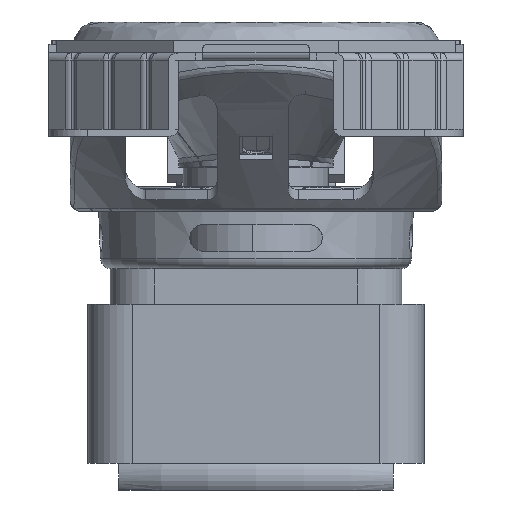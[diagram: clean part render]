
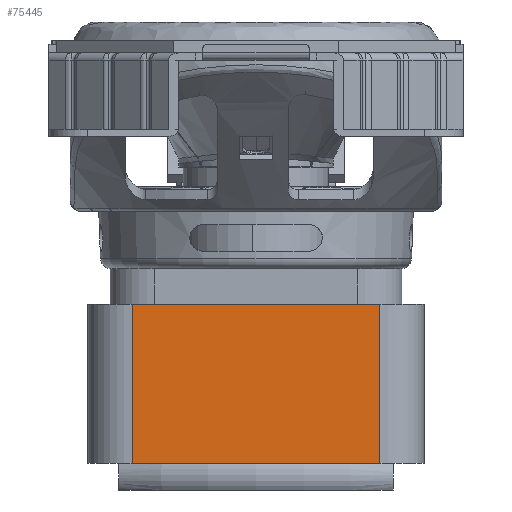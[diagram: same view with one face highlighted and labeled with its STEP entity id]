
A CAD part, left-side view. The second image highlights one B-rep face of the part: STEP entity #75445.
In plain terms, the highlighted planar face has unit normal (-1, 0, 0).
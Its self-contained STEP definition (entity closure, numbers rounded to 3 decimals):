
#74941=DIRECTION('',(0.,-1.,0.));
#74942=VECTOR('',#74941,28.);
#74943=CARTESIAN_POINT('',(-35.,14.,0.));
#74944=LINE('',#74943,#74942);
#75076=DIRECTION('',(0.,-1.,0.));
#75077=VECTOR('',#75076,28.);
#75078=CARTESIAN_POINT('',(-35.,14.,18.));
#75079=LINE('',#75078,#75077);
#75125=DIRECTION('',(0.,0.,1.));
#75126=VECTOR('',#75125,18.);
#75127=CARTESIAN_POINT('',(-35.,-14.,0.));
#75128=LINE('',#75127,#75126);
#75132=DIRECTION('',(0.,0.,1.));
#75133=VECTOR('',#75132,18.);
#75134=CARTESIAN_POINT('',(-35.,14.,0.));
#75135=LINE('',#75134,#75133);
#75144=CARTESIAN_POINT('',(-35.,14.,0.));
#75146=VERTEX_POINT('',#75144);
#75147=CARTESIAN_POINT('',(-35.,-14.,0.));
#75148=VERTEX_POINT('',#75147);
#75164=CARTESIAN_POINT('',(-35.,14.,18.));
#75166=VERTEX_POINT('',#75164);
#75167=CARTESIAN_POINT('',(-35.,-14.,18.));
#75168=VERTEX_POINT('',#75167);
#75434=CARTESIAN_POINT('',(-35.,14.,0.));
#75435=DIRECTION('',(-1.,0.,0.));
#75436=DIRECTION('',(0.,-1.,0.));
#75437=AXIS2_PLACEMENT_3D('',#75434,#75435,#75436);
#75438=PLANE('',#75437);
#75439=ORIENTED_EDGE('',*,*,#75186,.F.);
#75440=ORIENTED_EDGE('',*,*,#75302,.T.);
#75441=ORIENTED_EDGE('',*,*,#75277,.T.);
#75442=ORIENTED_EDGE('',*,*,#75420,.F.);
#75443=EDGE_LOOP('',(#75439,#75440,#75441,#75442));
#75444=FACE_OUTER_BOUND('',#75443,.F.);
#75445=ADVANCED_FACE('',(#75444),#75438,.T.);
#75186=EDGE_CURVE('',#75146,#75148,#74944,.T.);
#75277=EDGE_CURVE('',#75166,#75168,#75079,.T.);
#75302=EDGE_CURVE('',#75146,#75166,#75135,.T.);
#75420=EDGE_CURVE('',#75148,#75168,#75128,.T.);
